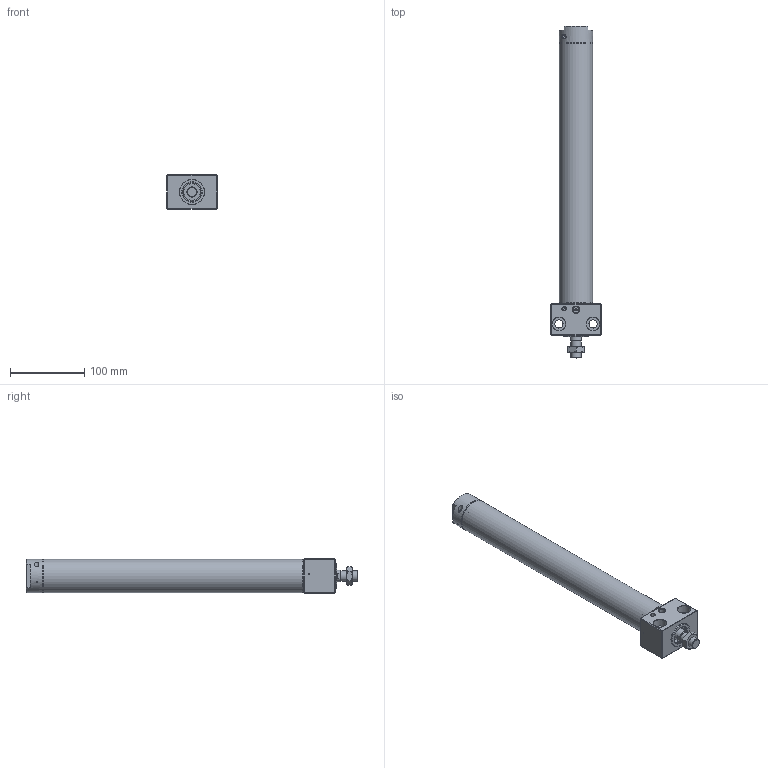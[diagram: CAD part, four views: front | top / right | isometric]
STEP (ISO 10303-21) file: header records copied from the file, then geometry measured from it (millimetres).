
FILE_DESCRIPTION((''),'2;1');
FILE_NAME('I:\3D電子目錄\氣缸\DBS\DBS\DBS40x300-C.stp','2007-10-08T08:50:01',('Administrator'),(''),'Autodesk Inventor 2008','Autodesk Inventor 2008','');
FILE_SCHEMA(('AUTOMOTIVE_DESIGN { 1 0 10303 214 1 1 1 1 }'));
Length unit declared in the file: millimetre
Products named in the file (1): DBS40x300-C
Bounding box: 68 x 448.6 x 46 mm (x, y, z)
Volume: 295864.8 mm3; surface area: 136803 mm2
Topology: 7 solids, 7 shells, 207 faces, 421 edges, 258 vertices
Faces by surface type: plane 92, cone 50, cylinder 46, bspline 16, torus 3
Full cylindrical faces by diameter (mm): 1.2 x1, 1.9 x2, 3 x2, 3.3 x1, 4.6 x2, 5 x2, 6 x2, 10.5 x1, 12 x1, 13 x1, 14 x2, 16 x1, 16.5 x1, 18 x1, 21 x2, 24 x3, 26 x2, 27.5 x1, 28 x2, 34 x1, 38 x2, 38.5 x2, 40 x1, 42.2 x6, 45 x4
Entity records: 5327 total; most frequent: CARTESIAN_POINT 1420, DIRECTION 818, ORIENTED_EDGE 630, AXIS2_PLACEMENT_3D 361, EDGE_LOOP 350, EDGE_CURVE 315, VERTEX_POINT 243, FACE_OUTER_BOUND 207
